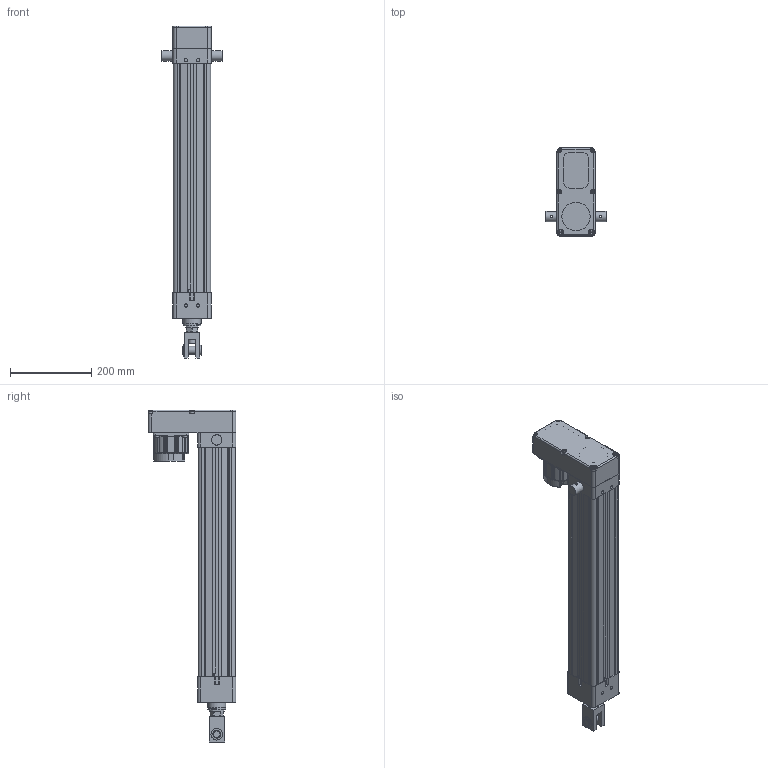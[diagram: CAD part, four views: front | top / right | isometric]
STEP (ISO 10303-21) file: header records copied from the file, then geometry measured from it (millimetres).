
FILE_DESCRIPTION (( 'STEP AP203' ), '1' );
FILE_NAME ('RSA50_BNM05_SK18.000_RS-476957-1.step', '2024-12-16T21:34:12', ( '' ), ( '' ), 'SwSTEP 2.0', 'SolidWorks 2024', '' );
FILE_SCHEMA (( 'CONFIG_CONTROL_DESIGN' ));
Length unit declared in the file: inch
Products named in the file (6): RSA50_BNM05_SK18.000_RS-476957-1; tempJoin0_11509431_RSA50_BNM05_SK18.000_RS-476957-1; tempJoin11_83169035_RSA50_BNM05_SK18.000_RS-476957-1; 36041849_RSA50_BNM05_SK18.000_RS-476957-1_Default Web; 11509029_RSA50_BNM05_SK18.000_RS-476957-1; Base_RSA50_BNM05_SK18.000_RS-476957-1
Assembly tree (5 placements, depth 2):
  RSA50_BNM05_SK18.000_RS-476957-1
    11509029_RSA50_BNM05_SK18.000_RS-476957-1
    tempJoin11_83169035_RSA50_BNM05_SK18.000_RS-476957-1
    36041849_RSA50_BNM05_SK18.000_RS-476957-1_Default Web
    tempJoin0_11509431_RSA50_BNM05_SK18.000_RS-476957-1
    Base_RSA50_BNM05_SK18.000_RS-476957-1
Bounding box: 148.08 x 216.15 x 817.09 mm (x, y, z)
Volume: 5176187.2 mm3; surface area: 781258.5 mm2
Topology: 15 solids, 23 shells, 1167 faces, 2909 edges, 1855 vertices
Faces by surface type: plane 584, cylinder 432, cone 80, torus 41, bspline 29, sphere 1
Full cylindrical faces by diameter (mm): 2.362 x2, 2.5 x2, 3.967 x1, 4.2 x4, 4.826 x1, 5 x8, 5.588 x4, 6 x4, 6.35 x2, 6.528 x4, 7.14 x4, 7.925 x1, 7.937 x2, 7.938 x2, 8 x4, 8.331 x1, 8.5 x4, 8.636 x4, 8.731 x2, 8.74 x4, 10 x4, 12.7 x2, 13 x8, 13.462 x4, 14.288 x4, 17.435 x1, 17.462 x3, 19.05 x3, 23.876 x1, 25.39 x2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
Entity records: 35835 total; most frequent: CARTESIAN_POINT 7927, DIRECTION 5903, ORIENTED_EDGE 5320, EDGE_CURVE 2660, AXIS2_PLACEMENT_3D 2248, VERTEX_POINT 1783, EDGE_LOOP 1477, VECTOR 1407
